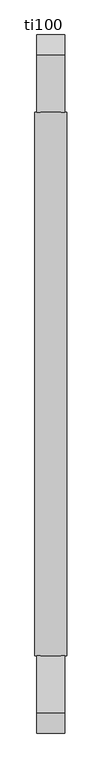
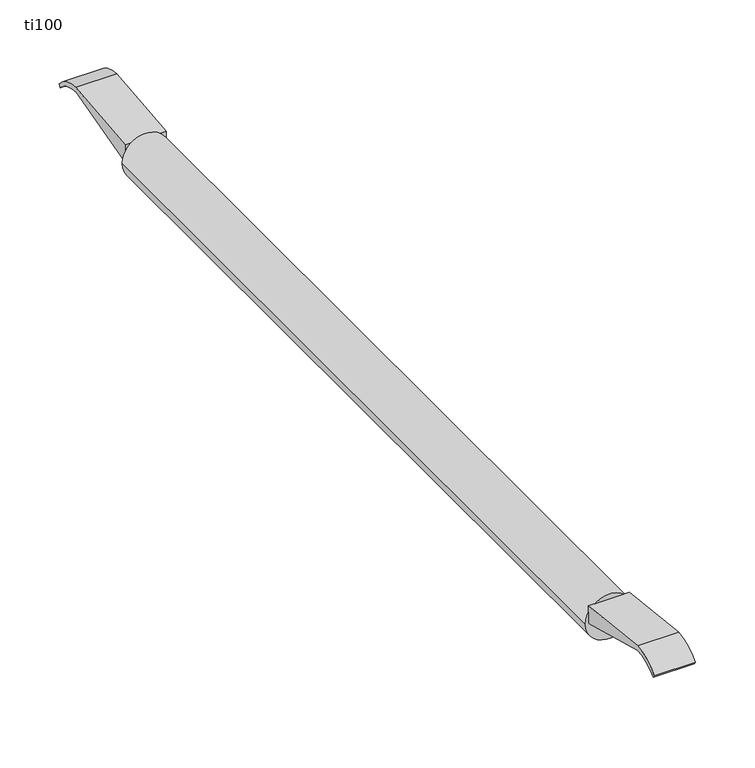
"""IFC4 building model written with IfcOpenShell, lengths in millimetres: proxy geometry, MILLS_ACRAM_TRAVERSES_INTERMEDIAIRE : ti100."""

from ifc_helpers import new_model, si_unit, point, frame, frame_2d, origin, place, context, project, spatial, polyline, circle_curve, trimmed, segment, composite_curve, outline, extrude, source, transform, mapped, element, save


def ti100_9a57c83d(model_context):
    return source(origin(), model_context, "Body", "SweptSolid", [
        extrude(outline(composite_curve([segment(trimmed(circle_curve(frame_2d((0.0, 121.714721)), 24.15), [point((0.0, 145.864721))], [point((0.0, 97.564721))], False, "CARTESIAN"), True, "CONTINUOUS"), segment(trimmed(circle_curve(frame_2d((0.0, 121.714721)), 24.15), [point((0.0, 97.564721))], [point((0.0, 145.864721))], False, "CARTESIAN"), True, "CONTINUOUS")], self_intersect=False)), frame((0.0, -2427.7171758, 0.0), z_axis=(0.0, 1.0, 0.0), x_axis=(0.0, 0.0, 1.0)), (0.0, 0.0, 1.0), 825.0),
        extrude(outline(composite_curve([segment(polyline([(-2542.9772572, 11.361072), (-2544.9675257, 14.2034699)]), True, "CONTINUOUS"), segment(trimmed(circle_curve(frame_2d((-2514.0474654, -12.3218171)), 40.7386914), [point((-2544.9675257, 14.2034699))], [point((-2515.2171758, 28.4000782))], False, "CARTESIAN"), True, "CONTINUOUS"), segment(polyline([(-2515.2171758, 28.4000782), (-2427.7171758, 19.0168994), (-2427.7171758, 0.0), (-2514.8598305, 23.4080052)]), True, "CONTINUOUS"), segment(trimmed(circle_curve(frame_2d((-2514.1398089, -17.1088873)), 40.5232897), [point((-2514.8598305, 23.4080052))], [point((-2542.9772572, 11.361072))], True, "CARTESIAN"), True, "CONTINUOUS")], self_intersect=False)), frame((100.6560631, 0.0, 0.0), z_axis=(1.0, 0.0, 0.0), x_axis=(0.0, 1.0, 0.0)), (0.0, 0.0, 1.0), 42.1173157),
        extrude(outline(composite_curve([segment(trimmed(circle_curve(frame_2d((-1516.2945427, -17.1088873)), 40.5232897), [point((-1487.4570944, 11.361072))], [point((-1515.5745211, 23.4080052))], True, "CARTESIAN"), True, "CONTINUOUS"), segment(polyline([(-1515.5745211, 23.4080052), (-1602.7171758, 0.0), (-1602.7171758, 19.0168994), (-1515.2171758, 28.4000782)]), True, "CONTINUOUS"), segment(trimmed(circle_curve(frame_2d((-1516.3868862, -12.3218171)), 40.7386914), [point((-1515.2171758, 28.4000782))], [point((-1485.466826, 14.2034699))], False, "CARTESIAN"), True, "CONTINUOUS"), segment(polyline([(-1485.466826, 14.2034699), (-1487.4570944, 11.361072)]), True, "CONTINUOUS")], self_intersect=False)), frame((100.6560631, 0.0, 0.0), z_axis=(1.0, 0.0, 0.0), x_axis=(0.0, 1.0, 0.0)), (0.0, 0.0, 1.0), 42.1173157),
    ])


if __name__ == "__main__":
    model = new_model("IFC4")
    model_context = context("Model", 3, world=origin())
    ifc_project = project(units=[si_unit("LENGTHUNIT", "METRE", prefix="MILLI")], contexts=[model_context])
    site = spatial("IfcSite", under=ifc_project)
    building = spatial("IfcBuilding", under=site)
    placement = place(None, origin())
    ti100_shape = ti100_9a57c83d(model_context)
    element("IfcBuildingElementProxy", 1, Name="MILLS_ACRAM_TRAVERSES_INTERMEDIAIRE : ti100", ObjectType="MILLS_ACRAM_TRAVERSES_INTERMEDIAIRE : ti100", at=placement, inside=building, context=model_context, shape_type="MappedRepresentation", body=[
        mapped(ti100_shape, transform((0.0, 0.0, 0.0), x_axis=(1.0, 0.0, 0.0), y_axis=(0.0, 1.0, 0.0), z_axis=(0.0, 0.0, 1.0))),
    ])
    save(model, "model.ifc")
